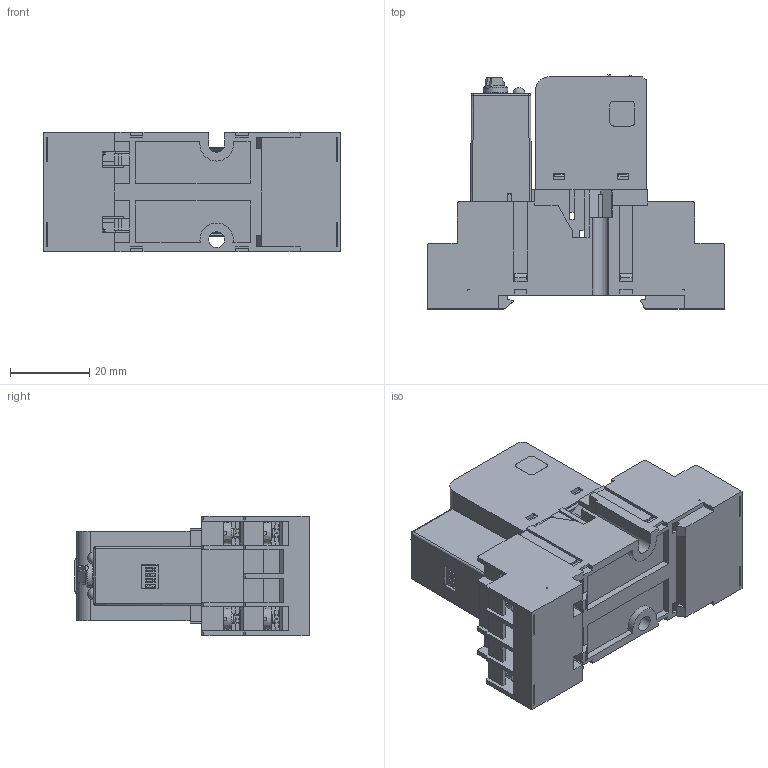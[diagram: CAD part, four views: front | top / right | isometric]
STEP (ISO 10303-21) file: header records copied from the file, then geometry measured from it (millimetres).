
FILE_DESCRIPTION(('STEP AP214'), '1');
FILE_NAME('Ðåëå ìîäóëüíîå ÐÏ30Õ-ÂÕ-002 (íà ïîêàç)', '', ('UNSPECIFIED'), ('UNSPECIFIED'), 'ASCON STEP Converter 1.6', 'ASCON Math Kernel', '');
FILE_SCHEMA(('AUTOMOTIVE_DESIGN { 1 0 10303 214 3 1 1}'));
Length unit declared in the file: millimetre
Bounding box: 74.9 x 59 x 30 mm (x, y, z)
Volume: 21793 mm3; surface area: 39285.4 mm2
Topology: 11 solids, 11 shells, 2976 faces, 8488 edges, 5446 vertices
Faces by surface type: plane 2258, cylinder 457, torus 112, bspline 88, cone 59, sphere 2
Full cylindrical faces by diameter (mm): 0.3 x4, 0.6 x2, 2.3 x8, 3 x20, 3.2 x3, 3.54 x8, 4 x1, 4.5 x14
Entity records: 134427 total; most frequent: CARTESIAN_POINT 34880, ORIENTED_EDGE 16758, DIRECTION 14085, EDGE_CURVE 8379, LINE 6243, VECTOR 6243, VERTEX_POINT 5444, AXIS2_PLACEMENT_3D 3921
